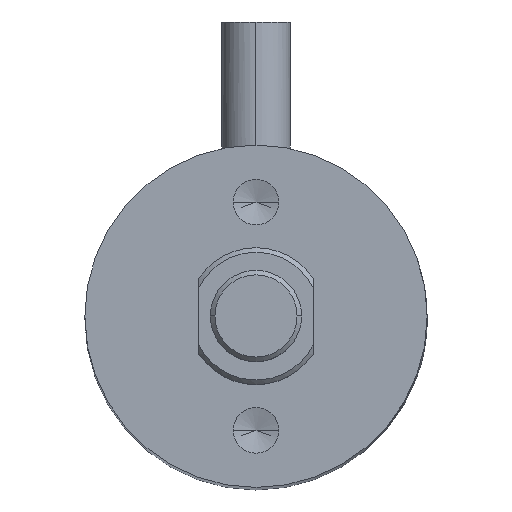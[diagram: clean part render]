
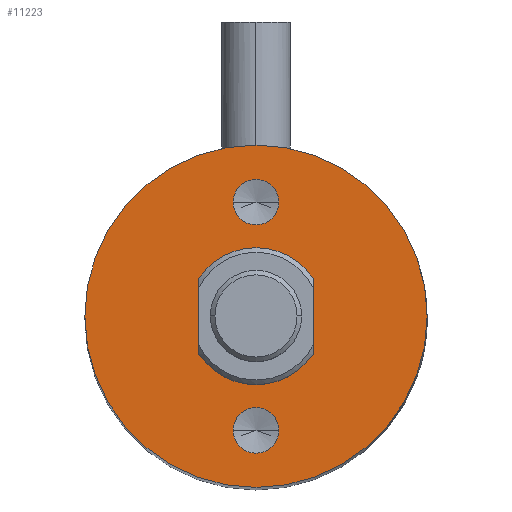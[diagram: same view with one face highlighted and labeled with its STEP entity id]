
A CAD part, top view. The second image highlights one B-rep face of the part: STEP entity #11223.
In plain terms, the highlighted planar face has unit normal (0, 0, 1).
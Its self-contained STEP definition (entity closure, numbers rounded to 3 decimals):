
#121 = CARTESIAN_POINT ( 'NONE',  ( 0., 0., 64.5 ) ) ;
#602 = AXIS2_PLACEMENT_3D ( 'NONE', #121, #28018, #47372 ) ;
#893 = DIRECTION ( 'NONE',  ( 0., 0., 1. ) ) ;
#1560 = ORIENTED_EDGE ( 'NONE', *, *, #13313, .F. ) ;
#2953 = EDGE_CURVE ( 'NONE', #17611, #32787, #38209, .T. ) ;
#3884 = CARTESIAN_POINT ( 'NONE',  ( -2.5, -6.39, 64.5 ) ) ;
#4219 = VERTEX_POINT ( 'NONE', #25930 ) ;
#4380 = CIRCLE ( 'NONE', #50560, 1. ) ;
#4430 = FACE_BOUND ( 'NONE', #38692, .T. ) ;
#5766 = VECTOR ( 'NONE', #23350, 1000. ) ;
#5985 = PLANE ( 'NONE',  #35817 ) ;
#7276 = CARTESIAN_POINT ( 'NONE',  ( 0., 0., 64.5 ) ) ;
#8143 = VERTEX_POINT ( 'NONE', #9988 ) ;
#8442 = ORIENTED_EDGE ( 'NONE', *, *, #47279, .F. ) ;
#8676 = CARTESIAN_POINT ( 'NONE',  ( 0., 5., 64.5 ) ) ;
#9988 = CARTESIAN_POINT ( 'NONE',  ( -1., -5., 64.5 ) ) ;
#10224 = CARTESIAN_POINT ( 'NONE',  ( -7.5, 0., 64.5 ) ) ;
#10402 = AXIS2_PLACEMENT_3D ( 'NONE', #31071, #893, #45192 ) ;
#11223 = ADVANCED_FACE ( 'NONE', ( #38068, #31845, #4430, #40578 ), #5985, .T. ) ;
#11842 = CIRCLE ( 'NONE', #602, 7.5 ) ;
#13313 = EDGE_CURVE ( 'NONE', #41271, #8143, #4380, .T. ) ;
#13519 = VERTEX_POINT ( 'NONE', #36800 ) ;
#13733 = DIRECTION ( 'NONE',  ( 1., 0., 0. ) ) ;
#14176 = EDGE_CURVE ( 'NONE', #27272, #13519, #39925, .T. ) ;
#14549 = DIRECTION ( 'NONE',  ( 1., 0., 0. ) ) ;
#14678 = DIRECTION ( 'NONE',  ( 0., -1., 0. ) ) ;
#14850 = DIRECTION ( 'NONE',  ( 0., 0., 1. ) ) ;
#15378 = DIRECTION ( 'NONE',  ( 1., 0., 0. ) ) ;
#17565 = ORIENTED_EDGE ( 'NONE', *, *, #38468, .T. ) ;
#17611 = VERTEX_POINT ( 'NONE', #36029 ) ;
#17769 = ORIENTED_EDGE ( 'NONE', *, *, #14176, .T. ) ;
#17985 = DIRECTION ( 'NONE',  ( 0., 0., 1. ) ) ;
#18489 = CIRCLE ( 'NONE', #10402, 1. ) ;
#19706 = EDGE_LOOP ( 'NONE', ( #35878, #20317 ) ) ;
#20317 = ORIENTED_EDGE ( 'NONE', *, *, #39155, .F. ) ;
#20561 = CARTESIAN_POINT ( 'NONE',  ( 2.5, 1.658, 64.5 ) ) ;
#20734 = CARTESIAN_POINT ( 'NONE',  ( 2.5, -1.658, 64.5 ) ) ;
#20768 = CARTESIAN_POINT ( 'NONE',  ( 0., -5., 64.5 ) ) ;
#21502 = AXIS2_PLACEMENT_3D ( 'NONE', #49303, #33581, #13733 ) ;
#23350 = DIRECTION ( 'NONE',  ( 0., 1., 0. ) ) ;
#23410 = AXIS2_PLACEMENT_3D ( 'NONE', #7276, #46994, #14549 ) ;
#24265 = ORIENTED_EDGE ( 'NONE', *, *, #28162, .T. ) ;
#25930 = CARTESIAN_POINT ( 'NONE',  ( -1., 5., 64.5 ) ) ;
#26757 = CIRCLE ( 'NONE', #46375, 3. ) ;
#27037 = DIRECTION ( 'NONE',  ( 1., 0., 0. ) ) ;
#27219 = LINE ( 'NONE', #30208, #51591 ) ;
#27272 = VERTEX_POINT ( 'NONE', #10224 ) ;
#27744 = EDGE_LOOP ( 'NONE', ( #17565, #47176, #33642, #42286 ) ) ;
#28018 = DIRECTION ( 'NONE',  ( 0., 0., 1. ) ) ;
#28162 = EDGE_CURVE ( 'NONE', #13519, #27272, #11842, .T. ) ;
#28690 = DIRECTION ( 'NONE',  ( 1., 0., 0. ) ) ;
#28748 = EDGE_CURVE ( 'NONE', #47858, #32787, #26757, .T. ) ;
#29691 = DIRECTION ( 'NONE',  ( 1., 0., 0. ) ) ;
#30005 = DIRECTION ( 'NONE',  ( 0., 0., 1. ) ) ;
#30208 = CARTESIAN_POINT ( 'NONE',  ( 2.5, -6.39, 64.5 ) ) ;
#30342 = CARTESIAN_POINT ( 'NONE',  ( 0., 0., 64.5 ) ) ;
#31071 = CARTESIAN_POINT ( 'NONE',  ( 0., 5., 64.5 ) ) ;
#31845 = FACE_OUTER_BOUND ( 'NONE', #43590, .T. ) ;
#32608 = CARTESIAN_POINT ( 'NONE',  ( 1., -5., 64.5 ) ) ;
#32787 = VERTEX_POINT ( 'NONE', #40064 ) ;
#33581 = DIRECTION ( 'NONE',  ( 0., 0., 1. ) ) ;
#33642 = ORIENTED_EDGE ( 'NONE', *, *, #2953, .T. ) ;
#34011 = CARTESIAN_POINT ( 'NONE',  ( 0., 0., 64.5 ) ) ;
#34094 = AXIS2_PLACEMENT_3D ( 'NONE', #8676, #36538, #28690 ) ;
#34164 = DIRECTION ( 'NONE',  ( 1., 0., 0. ) ) ;
#34484 = AXIS2_PLACEMENT_3D ( 'NONE', #50785, #14850, #15378 ) ;
#35817 = AXIS2_PLACEMENT_3D ( 'NONE', #30342, #30005, #34164 ) ;
#35878 = ORIENTED_EDGE ( 'NONE', *, *, #38546, .F. ) ;
#36029 = CARTESIAN_POINT ( 'NONE',  ( -2.5, -1.658, 64.5 ) ) ;
#36538 = DIRECTION ( 'NONE',  ( 0., 0., 1. ) ) ;
#36800 = CARTESIAN_POINT ( 'NONE',  ( 7.5, 0., 64.5 ) ) ;
#37219 = CIRCLE ( 'NONE', #34094, 1. ) ;
#38068 = FACE_BOUND ( 'NONE', #27744, .T. ) ;
#38209 = LINE ( 'NONE', #3884, #5766 ) ;
#38468 = EDGE_CURVE ( 'NONE', #47858, #41215, #27219, .T. ) ;
#38546 = EDGE_CURVE ( 'NONE', #47760, #4219, #18489, .T. ) ;
#38685 = CARTESIAN_POINT ( 'NONE',  ( 1., 5., 64.5 ) ) ;
#38692 = EDGE_LOOP ( 'NONE', ( #1560, #8442 ) ) ;
#39155 = EDGE_CURVE ( 'NONE', #4219, #47760, #37219, .T. ) ;
#39692 = CIRCLE ( 'NONE', #23410, 3. ) ;
#39925 = CIRCLE ( 'NONE', #34484, 7.5 ) ;
#40064 = CARTESIAN_POINT ( 'NONE',  ( -2.5, 1.658, 64.5 ) ) ;
#40328 = EDGE_CURVE ( 'NONE', #17611, #41215, #39692, .T. ) ;
#40578 = FACE_BOUND ( 'NONE', #19706, .T. ) ;
#41215 = VERTEX_POINT ( 'NONE', #20734 ) ;
#41271 = VERTEX_POINT ( 'NONE', #32608 ) ;
#42286 = ORIENTED_EDGE ( 'NONE', *, *, #28748, .F. ) ;
#42688 = CIRCLE ( 'NONE', #21502, 1. ) ;
#43590 = EDGE_LOOP ( 'NONE', ( #17769, #24265 ) ) ;
#45192 = DIRECTION ( 'NONE',  ( 1., 0., 0. ) ) ;
#46375 = AXIS2_PLACEMENT_3D ( 'NONE', #34011, #17985, #29691 ) ;
#46994 = DIRECTION ( 'NONE',  ( 0., 0., 1. ) ) ;
#47176 = ORIENTED_EDGE ( 'NONE', *, *, #40328, .F. ) ;
#47279 = EDGE_CURVE ( 'NONE', #8143, #41271, #42688, .T. ) ;
#47372 = DIRECTION ( 'NONE',  ( 1., 0., 0. ) ) ;
#47760 = VERTEX_POINT ( 'NONE', #38685 ) ;
#47858 = VERTEX_POINT ( 'NONE', #20561 ) ;
#49303 = CARTESIAN_POINT ( 'NONE',  ( 0., -5., 64.5 ) ) ;
#50560 = AXIS2_PLACEMENT_3D ( 'NONE', #20768, #50762, #27037 ) ;
#50762 = DIRECTION ( 'NONE',  ( 0., 0., 1. ) ) ;
#50785 = CARTESIAN_POINT ( 'NONE',  ( 0., 0., 64.5 ) ) ;
#51591 = VECTOR ( 'NONE', #14678, 1000. ) ;
